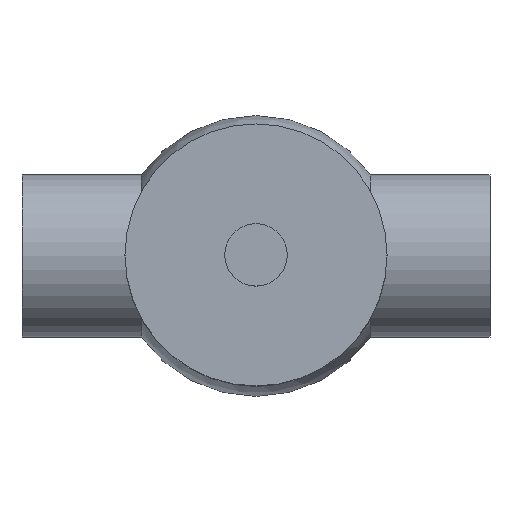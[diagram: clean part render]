
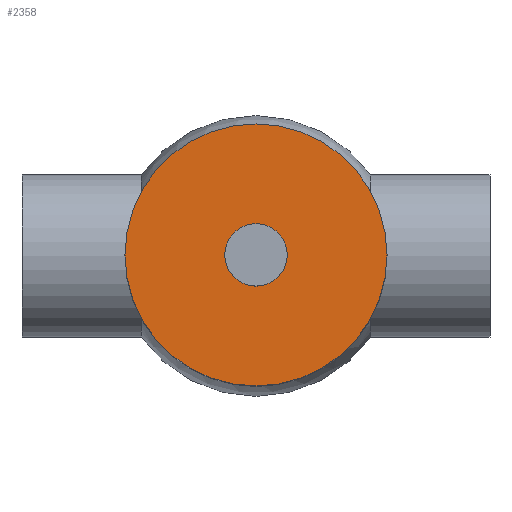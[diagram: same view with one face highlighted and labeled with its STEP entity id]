
A CAD part, top view. The second image highlights one B-rep face of the part: STEP entity #2358.
In plain terms, the highlighted planar face has unit normal (0, 0, 1).
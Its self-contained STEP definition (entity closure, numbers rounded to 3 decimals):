
#2274 = CYLINDRICAL_SURFACE('',#2275,84.);
#2275 = AXIS2_PLACEMENT_3D('',#2276,#2277,#2278);
#2276 = CARTESIAN_POINT('',(0.,0.,213.5));
#2277 = DIRECTION('',(0.,0.,1.));
#2278 = DIRECTION('',(1.,0.,0.));
#2307 = EDGE_CURVE('',#2308,#2308,#2310,.T.);
#2308 = VERTEX_POINT('',#2309);
#2309 = CARTESIAN_POINT('',(84.,0.,384.3));
#2310 = SURFACE_CURVE('',#2311,(#2316,#2323),.PCURVE_S1.);
#2311 = CIRCLE('',#2312,84.);
#2312 = AXIS2_PLACEMENT_3D('',#2313,#2314,#2315);
#2313 = CARTESIAN_POINT('',(0.,0.,384.3));
#2314 = DIRECTION('',(0.,0.,1.));
#2315 = DIRECTION('',(1.,0.,0.));
#2316 = PCURVE('',#2274,#2317);
#2317 = DEFINITIONAL_REPRESENTATION('',(#2318),#2322);
#2318 = LINE('',#2319,#2320);
#2319 = CARTESIAN_POINT('',(0.,170.8));
#2320 = VECTOR('',#2321,1.);
#2321 = DIRECTION('',(1.,0.));
#2322 = ( GEOMETRIC_REPRESENTATION_CONTEXT(2) 
PARAMETRIC_REPRESENTATION_CONTEXT() REPRESENTATION_CONTEXT('2D SPACE',''
  ) );
#2323 = PCURVE('',#2324,#2329);
#2324 = PLANE('',#2325);
#2325 = AXIS2_PLACEMENT_3D('',#2326,#2327,#2328);
#2326 = CARTESIAN_POINT('',(0.,0.,384.3));
#2327 = DIRECTION('',(0.,0.,1.));
#2328 = DIRECTION('',(1.,0.,0.));
#2329 = DEFINITIONAL_REPRESENTATION('',(#2330),#2334);
#2330 = CIRCLE('',#2331,84.);
#2331 = AXIS2_PLACEMENT_2D('',#2332,#2333);
#2332 = CARTESIAN_POINT('',(0.,0.));
#2333 = DIRECTION('',(1.,0.));
#2334 = ( GEOMETRIC_REPRESENTATION_CONTEXT(2) 
PARAMETRIC_REPRESENTATION_CONTEXT() REPRESENTATION_CONTEXT('2D SPACE',''
  ) );
#2358 = ADVANCED_FACE('',(#2359,#2362),#2324,.T.);
#2359 = FACE_BOUND('',#2360,.T.);
#2360 = EDGE_LOOP('',(#2361));
#2361 = ORIENTED_EDGE('',*,*,#2307,.T.);
#2362 = FACE_BOUND('',#2363,.T.);
#2363 = EDGE_LOOP('',(#2364));
#2364 = ORIENTED_EDGE('',*,*,#2365,.F.);
#2365 = EDGE_CURVE('',#2366,#2366,#2368,.T.);
#2366 = VERTEX_POINT('',#2367);
#2367 = CARTESIAN_POINT('',(20.,0.,384.3));
#2368 = SURFACE_CURVE('',#2369,(#2374,#2381),.PCURVE_S1.);
#2369 = CIRCLE('',#2370,20.);
#2370 = AXIS2_PLACEMENT_3D('',#2371,#2372,#2373);
#2371 = CARTESIAN_POINT('',(0.,0.,384.3));
#2372 = DIRECTION('',(0.,0.,1.));
#2373 = DIRECTION('',(1.,0.,-0.));
#2374 = PCURVE('',#2324,#2375);
#2375 = DEFINITIONAL_REPRESENTATION('',(#2376),#2380);
#2376 = CIRCLE('',#2377,20.);
#2377 = AXIS2_PLACEMENT_2D('',#2378,#2379);
#2378 = CARTESIAN_POINT('',(0.,0.));
#2379 = DIRECTION('',(1.,0.));
#2380 = ( GEOMETRIC_REPRESENTATION_CONTEXT(2) 
PARAMETRIC_REPRESENTATION_CONTEXT() REPRESENTATION_CONTEXT('2D SPACE',''
  ) );
#2381 = PCURVE('',#2382,#2387);
#2382 = CYLINDRICAL_SURFACE('',#2383,20.);
#2383 = AXIS2_PLACEMENT_3D('',#2384,#2385,#2386);
#2384 = CARTESIAN_POINT('',(0.,0.,90.));
#2385 = DIRECTION('',(0.,0.,1.));
#2386 = DIRECTION('',(1.,0.,0.));
#2387 = DEFINITIONAL_REPRESENTATION('',(#2388),#2392);
#2388 = LINE('',#2389,#2390);
#2389 = CARTESIAN_POINT('',(0.,294.3));
#2390 = VECTOR('',#2391,1.);
#2391 = DIRECTION('',(1.,0.));
#2392 = ( GEOMETRIC_REPRESENTATION_CONTEXT(2) 
PARAMETRIC_REPRESENTATION_CONTEXT() REPRESENTATION_CONTEXT('2D SPACE',''
  ) );
